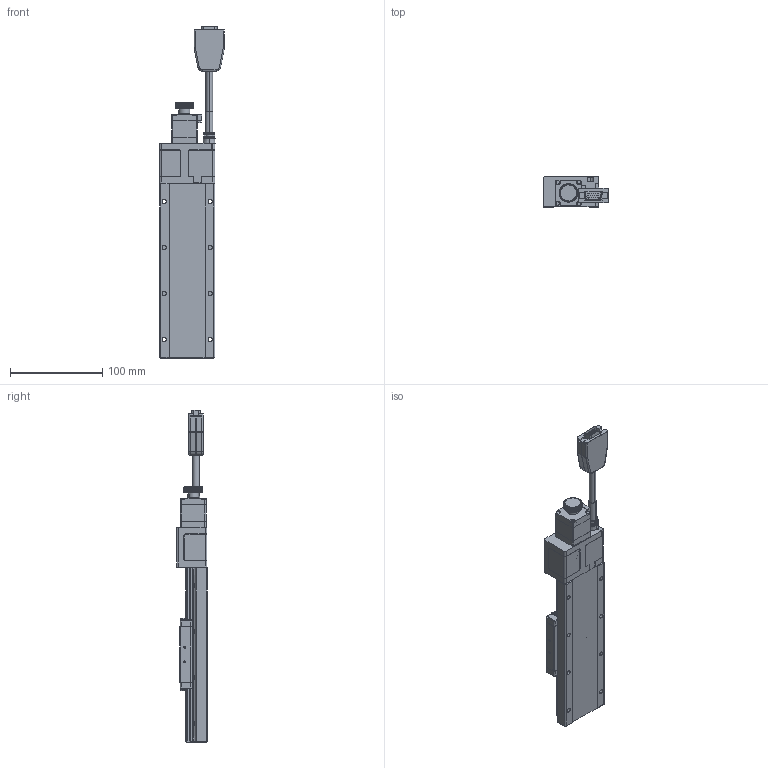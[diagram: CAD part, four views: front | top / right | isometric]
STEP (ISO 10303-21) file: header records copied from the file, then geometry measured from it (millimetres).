
FILE_DESCRIPTION (( 'STEP AP203' ), '1' );
FILE_NAME ('CXN60100-S2?N.STEP', '2023-09-28T02:28:41', ( '' ), ( '' ), 'SwSTEP 2.0', 'SolidWorks 2019', '' );
FILE_SCHEMA (( 'CONFIG_CONTROL_DESIGN' ));
Length unit declared in the file: millimetre
Products named in the file (3): Group3^CXN60100-S2?N(2023新版)_defeature_GMT; CXN60100-S2?N; Group4^CXN60100-S2?N(2023新版)_defeature_GMT
Assembly tree (2 placements, depth 2):
  CXN60100-S2?N
    Group3^CXN60100-S2?N(2023新版)_defeature_GMT
    Group4^CXN60100-S2?N(2023新版)_defeature_GMT
Bounding box: 70.5 x 33.5 x 360.6 mm (x, y, z)
Volume: 39333.1 mm3; surface area: 114803.8 mm2
Topology: 23 solids, 26 shells, 4174 faces, 10773 edges, 6648 vertices
Faces by surface type: plane 1556, cylinder 1249, cone 548, torus 422, bspline 265, sphere 134
Entity records: 139764 total; most frequent: CARTESIAN_POINT 39146, ORIENTED_EDGE 21246, DIRECTION 21161, EDGE_CURVE 10623, AXIS2_PLACEMENT_3D 8073, VERTEX_POINT 6640, LINE 5015, VECTOR 5015
